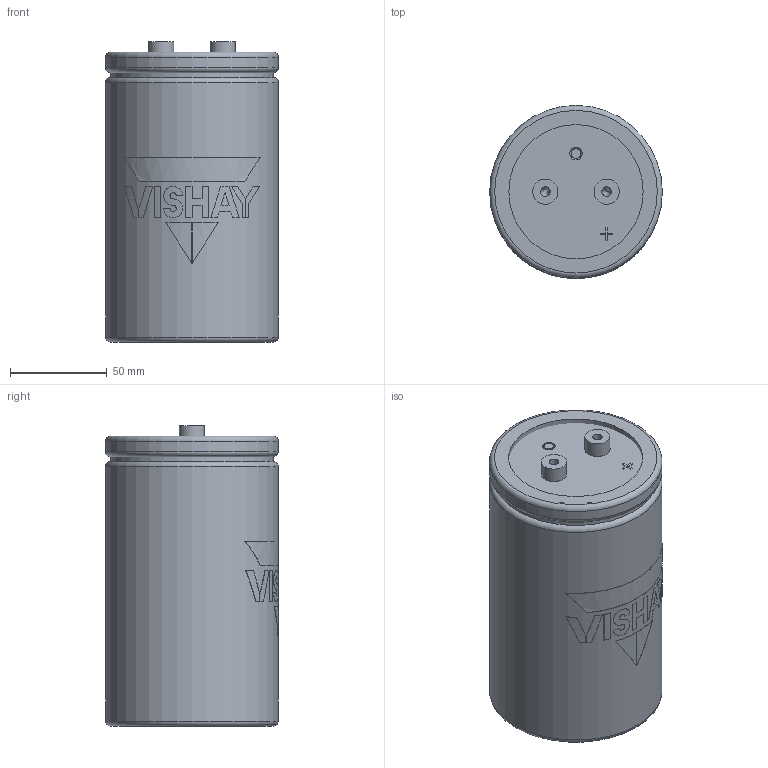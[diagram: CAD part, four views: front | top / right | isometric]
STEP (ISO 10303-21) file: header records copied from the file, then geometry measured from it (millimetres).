
FILE_DESCRIPTION(('FreeCAD Model'),'2;1');
FILE_NAME('C:/Users/tvandesteeg/Documents/Documents/FreeCAD/Stepfiles/ST capacitors/ST_HP_13mm_M6_90x146.step','2020-12-14T16:43:35',('Author'),( ''),'Open CASCADE STEP processor 7.3','FreeCAD','Unknown');
FILE_SCHEMA(('AUTOMOTIVE_DESIGN { 1 0 10303 214 1 1 1 1 }'));
Length unit declared in the file: millimetre
Products named in the file (8): VentBody; BottomBody; TerminalBody_(Mirror_#2); TerminalBody; Disc; LogoPrint; CanBody; TerminalHole
Bounding box: 89.4 x 89.5 x 155.4 mm (x, y, z)
Volume: 939858.7 mm3; surface area: 90217.3 mm2
Topology: 18 solids, 18 shells, 152 faces, 316 edges, 208 vertices
Faces by surface type: plane 95, cylinder 49, torus 5, cone 3
Full cylindrical faces by diameter (mm): 5 x4, 13 x2, 13.05 x7, 13.1 x2, 69.533 x3, 79 x2, 84.2 x1, 89.4 x2
Entity records: 10741 total; most frequent: CARTESIAN_POINT 3347, DIRECTION 1221, ORIENTED_EDGE 628, PCURVE 628, DEFINITIONAL_REPRESENTATION 628, LINE 537, VECTOR 537, EDGE_CURVE 314
